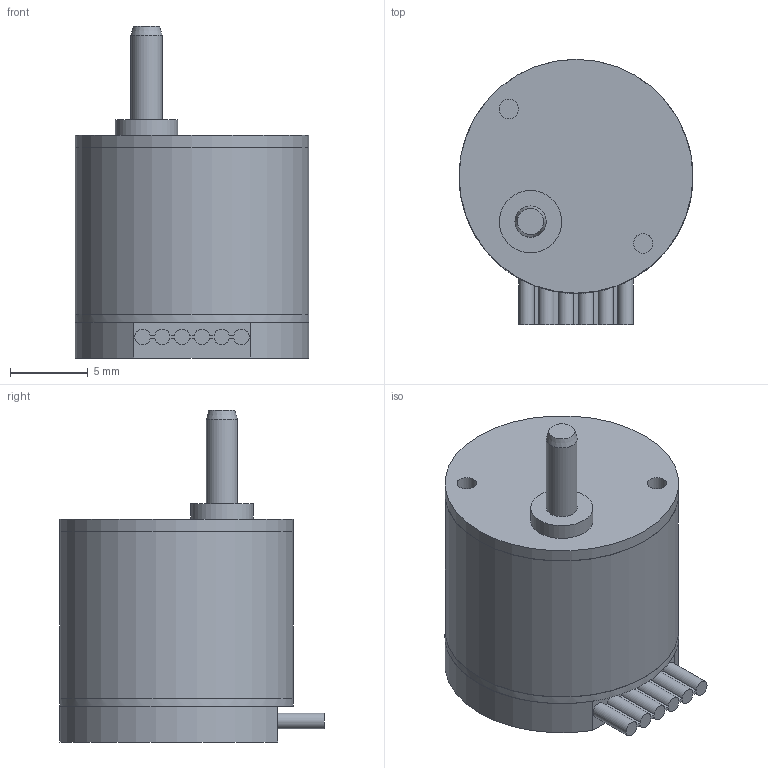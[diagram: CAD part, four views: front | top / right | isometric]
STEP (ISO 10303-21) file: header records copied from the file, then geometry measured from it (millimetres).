
FILE_DESCRIPTION(/* description */ (''),/* implementation_level */ '2;1');
FILE_NAME(/* name */ '1512U_SR_IE2-8.stp',/* time_stamp */ '2017-07-13T13:50:03+02:00',/* author */ ('DR. FRITZ FAULHABER GmbH & Co. KG'),/* organization */ ('DR. FRITZ FAULHABER GmbH & Co. KG'),/* preprocessor_version */ 'ST-DEVELOPER v16',/* originating_system */ 'SIEMENS PLM Software NX 10.0',/* authorisation */ '');
FILE_SCHEMA (('AUTOMOTIVE_DESIGN { 1 0 10303 214 3 1 1 1 }'));
Length unit declared in the file: millimetre
Products named in the file (1): Alle_Motoren
Bounding box: 15 x 17 x 21.3 mm (x, y, z)
Volume: 2555.3 mm3; surface area: 1155.5 mm2
Topology: 1 solids, 1 shells, 46 faces, 102 edges, 68 vertices
Faces by surface type: plane 24, cylinder 21, cone 1
Full cylindrical faces by diameter (mm): 1.25 x2, 2 x1, 4 x1, 14.99 x2, 15 x3
Entity records: 1254 total; most frequent: DIRECTION 228, CARTESIAN_POINT 205, ORIENTED_EDGE 182, EDGE_CURVE 91, AXIS2_PLACEMENT_3D 90, VERTEX_POINT 67, EDGE_LOOP 66, LINE 48
